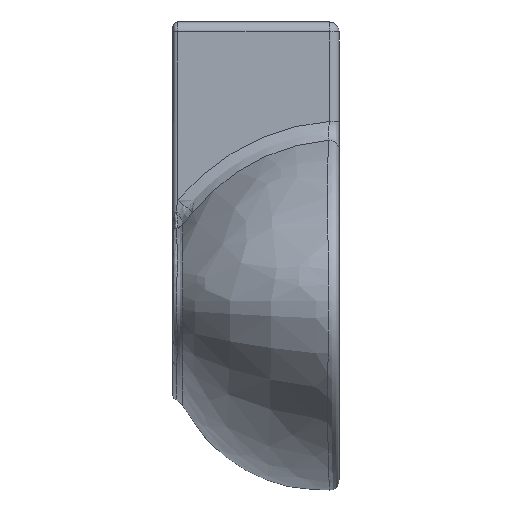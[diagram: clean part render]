
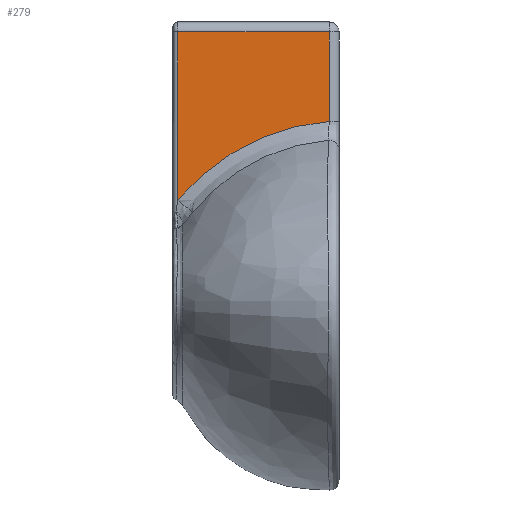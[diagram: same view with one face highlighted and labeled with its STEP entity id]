
A CAD part, left-side view. The second image highlights one B-rep face of the part: STEP entity #279.
In plain terms, the highlighted planar face has unit normal (-1, 0, 0).
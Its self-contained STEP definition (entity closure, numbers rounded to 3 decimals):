
#279 = ADVANCED_FACE( '', ( #603 ), #604, .T. );
#603 = FACE_OUTER_BOUND( '', #11190, .T. );
#604 = PLANE( '', #11191 );
#11190 = EDGE_LOOP( '', ( #18648, #18649, #18650, #18651 ) );
#11191 = AXIS2_PLACEMENT_3D( '', #18652, #18653, #18654 );
#18648 = ORIENTED_EDGE( '', *, *, #19003, .T. );
#18649 = ORIENTED_EDGE( '', *, *, #19060, .T. );
#18650 = ORIENTED_EDGE( '', *, *, #19271, .T. );
#18651 = ORIENTED_EDGE( '', *, *, #19041, .T. );
#18652 = CARTESIAN_POINT( '', ( -160., 0., 0. ) );
#18653 = DIRECTION( '', ( -1., 0., 0. ) );
#18654 = DIRECTION( '', ( 0., -1., 0. ) );
#19003 = EDGE_CURVE( '', #19391, #19396, #19398, .T. );
#19041 = EDGE_CURVE( '', #19453, #19391, #19460, .T. );
#19060 = EDGE_CURVE( '', #19396, #19491, #19493, .T. );
#19271 = EDGE_CURVE( '', #19491, #19453, #19786, .T. );
#19391 = VERTEX_POINT( '', #20444 );
#19396 = VERTEX_POINT( '', #20450 );
#19398 = LINE( '', #20452, #20453 );
#19453 = VERTEX_POINT( '', #20807 );
#19460 = B_SPLINE_CURVE_WITH_KNOTS( '', 3, ( #20933, #20934, #20935, #20936, #20937, #20938, #20939, #20940, #20941, #20942, #20943, #20944, #20945, #20946, #20947, #20948, #20949, #20950, #20951, #20952, #20953, #20954, #20955, #20956, #20957, #20958, #20959, #20960, #20961, #20962, #20963, #20964, #20965, #20966, #20967, #20968, #20969, #20970, #20971, #20972, #20973, #20974, #20975, #20976, #20977, #20978, #20979, #20980, #20981, #20982, #20983, #20984, #20985, #20986, #20987, #20988, #20989 ), .UNSPECIFIED., .F., .F., ( 4, 2, 1, 2, 2, 1, 1, 2, 2, 1, 1, 2, 1, 2, 2, 1, 1, 2, 1, 1, 1, 2, 2, 1, 1, 1, 2, 2, 1, 2, 2, 2, 1, 1, 2, 1, 1, 4 ), ( 0., 0.011, 0.016, 0.022, 0.027, 0.033, 0.038, 0.044, 0.055, 0.06, 0.066, 0.071, 0.074, 0.075, 0.076, 0.076, 0.077, 0.082, 0.088, 0.093, 0.098, 0.104, 0.109, 0.115, 0.12, 0.126, 0.131, 0.137, 0.142, 0.148, 0.15, 0.151, 0.152, 0.153, 0.159, 0.164, 0.17, 0.175 ), .UNSPECIFIED. );
#19491 = VERTEX_POINT( '', #21234 );
#19493 = LINE( '', #21236, #21237 );
#19786 = LINE( '', #29908, #29909 );
#20444 = CARTESIAN_POINT( '', ( -160., 10., 180.053 ) );
#20450 = CARTESIAN_POINT( '', ( -160., 10., 270. ) );
#20452 = CARTESIAN_POINT( '', ( -160., 10., 280. ) );
#20453 = VECTOR( '', #30922, 1000. );
#20807 = CARTESIAN_POINT( '', ( -160., 162., 100.881 ) );
#20933 = CARTESIAN_POINT( '', ( -160., 162., 100.881 ) );
#20934 = CARTESIAN_POINT( '', ( -160., 159.63, 103.722 ) );
#20935 = CARTESIAN_POINT( '', ( -160., 157.203, 106.496 ) );
#20936 = CARTESIAN_POINT( '', ( -160., 153.476, 110.555 ) );
#20937 = CARTESIAN_POINT( '', ( -160., 150.962, 113.228 ) );
#20938 = CARTESIAN_POINT( '', ( -160., 148.391, 115.833 ) );
#20939 = CARTESIAN_POINT( '', ( -160., 145.791, 118.405 ) );
#20940 = CARTESIAN_POINT( '', ( -160., 144.476, 119.674 ) );
#20941 = CARTESIAN_POINT( '', ( -160., 141.819, 122.179 ) );
#20942 = CARTESIAN_POINT( '', ( -160., 139.132, 124.65 ) );
#20943 = CARTESIAN_POINT( '', ( -160., 135.015, 128.255 ) );
#20944 = CARTESIAN_POINT( '', ( -160., 132.213, 130.591 ) );
#20945 = CARTESIAN_POINT( '', ( -160., 127.965, 134.044 ) );
#20946 = CARTESIAN_POINT( '', ( -160., 125.075, 136.278 ) );
#20947 = CARTESIAN_POINT( '', ( -160., 120.652, 139.526 ) );
#20948 = CARTESIAN_POINT( '', ( -160., 117.673, 141.656 ) );
#20949 = CARTESIAN_POINT( '', ( -160., 113.116, 144.748 ) );
#20950 = CARTESIAN_POINT( '', ( -160., 110.018, 146.738 ) );
#20951 = CARTESIAN_POINT( '', ( -160., 107.671, 148.205 ) );
#20952 = CARTESIAN_POINT( '', ( -160., 106.492, 148.931 ) );
#20953 = CARTESIAN_POINT( '', ( -160., 105.304, 149.648 ) );
#20954 = CARTESIAN_POINT( '', ( -160., 104.808, 149.945 ) );
#20955 = CARTESIAN_POINT( '', ( -160., 104.709, 150.004 ) );
#20956 = CARTESIAN_POINT( '', ( -160., 104.51, 150.123 ) );
#20957 = CARTESIAN_POINT( '', ( -160., 104.212, 150.3 ) );
#20958 = CARTESIAN_POINT( '', ( -160., 102.322, 151.42 ) );
#20959 = CARTESIAN_POINT( '', ( -160., 100.521, 152.452 ) );
#20960 = CARTESIAN_POINT( '', ( -160., 97.303, 154.244 ) );
#20961 = CARTESIAN_POINT( '', ( -160., 94.068, 155.991 ) );
#20962 = CARTESIAN_POINT( '', ( -160., 89.166, 158.482 ) );
#20963 = CARTESIAN_POINT( '', ( -160., 84.215, 160.844 ) );
#20964 = CARTESIAN_POINT( '', ( -160., 80.881, 162.332 ) );
#20965 = CARTESIAN_POINT( '', ( -160., 77.531, 163.777 ) );
#20966 = CARTESIAN_POINT( '', ( -160., 75.848, 164.478 ) );
#20967 = CARTESIAN_POINT( '', ( -160., 72.465, 165.837 ) );
#20968 = CARTESIAN_POINT( '', ( -160., 69.065, 167.153 ) );
#20969 = CARTESIAN_POINT( '', ( -160., 63.917, 168.999 ) );
#20970 = CARTESIAN_POINT( '', ( -160., 58.72, 170.714 ) );
#20971 = CARTESIAN_POINT( '', ( -160., 55.222, 171.771 ) );
#20972 = CARTESIAN_POINT( '', ( -160., 51.708, 172.784 ) );
#20973 = CARTESIAN_POINT( '', ( -160., 49.942, 173.269 ) );
#20974 = CARTESIAN_POINT( '', ( -160., 46.394, 174.194 ) );
#20975 = CARTESIAN_POINT( '', ( -160., 42.829, 175.074 ) );
#20976 = CARTESIAN_POINT( '', ( -160., 39.23, 175.866 ) );
#20977 = CARTESIAN_POINT( '', ( -160., 36.518, 176.425 ) );
#20978 = CARTESIAN_POINT( '', ( -160., 35.611, 176.606 ) );
#20979 = CARTESIAN_POINT( '', ( -160., 34.476, 176.825 ) );
#20980 = CARTESIAN_POINT( '', ( -160., 34.249, 176.869 ) );
#20981 = CARTESIAN_POINT( '', ( -160., 33.794, 176.955 ) );
#20982 = CARTESIAN_POINT( '', ( -160., 33.112, 177.083 ) );
#20983 = CARTESIAN_POINT( '', ( -160., 30.609, 177.54 ) );
#20984 = CARTESIAN_POINT( '', ( -160., 28.329, 177.918 ) );
#20985 = CARTESIAN_POINT( '', ( -160., 24.677, 178.475 ) );
#20986 = CARTESIAN_POINT( '', ( -160., 21.02, 178.984 ) );
#20987 = CARTESIAN_POINT( '', ( -160., 15.519, 179.603 ) );
#20988 = CARTESIAN_POINT( '', ( -160., 11.841, 179.919 ) );
#20989 = CARTESIAN_POINT( '', ( -160., 10., 180.053 ) );
#21234 = CARTESIAN_POINT( '', ( -160., 162., 270. ) );
#21236 = CARTESIAN_POINT( '', ( -160., 0., 270. ) );
#21237 = VECTOR( '', #30984, 1000. );
#29908 = CARTESIAN_POINT( '', ( -160., 162., 0. ) );
#29909 = VECTOR( '', #31183, 1000. );
#30922 = DIRECTION( '', ( 0., 0., 1. ) );
#30984 = DIRECTION( '', ( 0., 1., 0. ) );
#31183 = DIRECTION( '', ( 0., 0., -1. ) );
